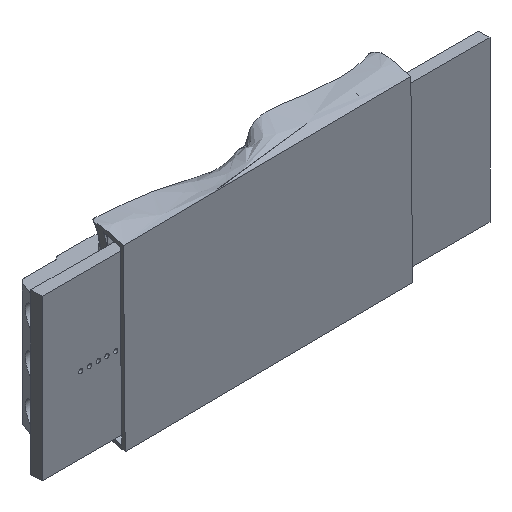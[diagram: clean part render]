
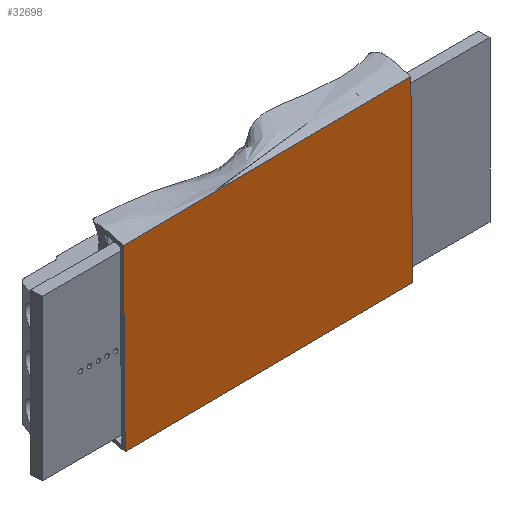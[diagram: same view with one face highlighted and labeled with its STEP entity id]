
A CAD part, isometric view. The second image highlights one B-rep face of the part: STEP entity #32698.
In plain terms, the highlighted planar face has unit normal (0, -1, 0).
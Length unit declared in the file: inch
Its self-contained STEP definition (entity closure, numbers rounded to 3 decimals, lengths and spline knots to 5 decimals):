
#448 = PLANE ( 'NONE',  #34100 ) ;
#868 = VECTOR ( 'NONE', #47304, 39.37008 ) ;
#2574 = VECTOR ( 'NONE', #16739, 39.37008 ) ;
#3670 = VERTEX_POINT ( 'NONE', #33476 ) ;
#4229 = VECTOR ( 'NONE', #6102, 39.37008 ) ;
#4455 = VERTEX_POINT ( 'NONE', #14915 ) ;
#6102 = DIRECTION ( 'NONE',  ( 0., 0., 1. ) ) ;
#6208 = ORIENTED_EDGE ( 'NONE', *, *, #13327, .T. ) ;
#6439 = LINE ( 'NONE', #24974, #868 ) ;
#9725 = CARTESIAN_POINT ( 'NONE',  ( -0.51356, 0., 0.81804 ) ) ;
#13327 = EDGE_CURVE ( 'NONE', #4455, #3670, #14558, .T. ) ;
#13905 = EDGE_CURVE ( 'NONE', #24200, #3670, #6439, .T. ) ;
#14558 = LINE ( 'NONE', #37146, #43813 ) ;
#14915 = CARTESIAN_POINT ( 'NONE',  ( -0.51356, 0., 0. ) ) ;
#16739 = DIRECTION ( 'NONE',  ( 1., 0., 0. ) ) ;
#24200 = VERTEX_POINT ( 'NONE', #41965 ) ;
#24974 = CARTESIAN_POINT ( 'NONE',  ( 0.50706, 0., 0.81804 ) ) ;
#25950 = ORIENTED_EDGE ( 'NONE', *, *, #13905, .F. ) ;
#25958 = DIRECTION ( 'NONE',  ( 0., 1., 0. ) ) ;
#26447 = CARTESIAN_POINT ( 'NONE',  ( 0., 0., 0. ) ) ;
#29592 = EDGE_CURVE ( 'NONE', #38935, #24200, #46050, .T. ) ;
#30236 = ORIENTED_EDGE ( 'NONE', *, *, #29592, .F. ) ;
#32296 = EDGE_LOOP ( 'NONE', ( #25950, #30236, #40869, #6208 ) ) ;
#32698 = ADVANCED_FACE ( 'NONE', ( #47559 ), #448, .F. ) ;
#33476 = CARTESIAN_POINT ( 'NONE',  ( 0.50706, 0., 0. ) ) ;
#33884 = EDGE_CURVE ( 'NONE', #4455, #38935, #42652, .T. ) ;
#34100 = AXIS2_PLACEMENT_3D ( 'NONE', #26447, #25958, #41092 ) ;
#37146 = CARTESIAN_POINT ( 'NONE',  ( -0.51356, 0., 0. ) ) ;
#38839 = CARTESIAN_POINT ( 'NONE',  ( -0.51356, 0., 1.63608 ) ) ;
#38935 = VERTEX_POINT ( 'NONE', #41880 ) ;
#40869 = ORIENTED_EDGE ( 'NONE', *, *, #33884, .F. ) ;
#41092 = DIRECTION ( 'NONE',  ( 0., 0., 1. ) ) ;
#41880 = CARTESIAN_POINT ( 'NONE',  ( -0.51356, 0., 1.63608 ) ) ;
#41965 = CARTESIAN_POINT ( 'NONE',  ( 0.50706, 0., 1.63608 ) ) ;
#42652 = LINE ( 'NONE', #9725, #4229 ) ;
#43813 = VECTOR ( 'NONE', #43866, 39.37008 ) ;
#43866 = DIRECTION ( 'NONE',  ( 1., 0., 0. ) ) ;
#46050 = LINE ( 'NONE', #38839, #2574 ) ;
#47304 = DIRECTION ( 'NONE',  ( 0., 0., -1. ) ) ;
#47559 = FACE_OUTER_BOUND ( 'NONE', #32296, .T. ) ;
